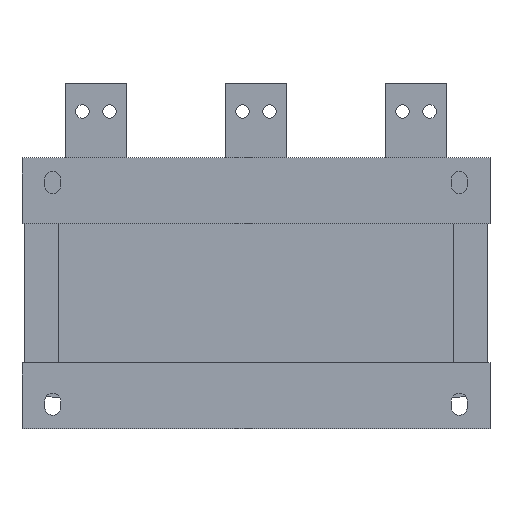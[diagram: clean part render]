
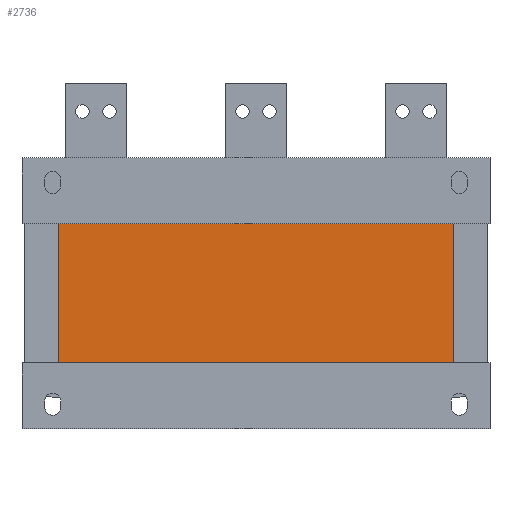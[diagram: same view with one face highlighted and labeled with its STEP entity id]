
A CAD part, front view. The second image highlights one B-rep face of the part: STEP entity #2736.
In plain terms, the highlighted planar face has unit normal (0, -1, 0).
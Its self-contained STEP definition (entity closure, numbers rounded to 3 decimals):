
#104=PLANE('',#2950);
#234=FACE_OUTER_BOUND('',#400,.T.);
#400=EDGE_LOOP('',(#2199,#2200,#2201,#2202));
#642=LINE('',#4227,#966);
#643=LINE('',#4229,#967);
#644=LINE('',#4231,#968);
#645=LINE('',#4232,#969);
#966=VECTOR('',#3454,10.);
#967=VECTOR('',#3455,10.);
#968=VECTOR('',#3456,10.);
#969=VECTOR('',#3457,10.);
#1341=VERTEX_POINT('',#4225);
#1342=VERTEX_POINT('',#4226);
#1343=VERTEX_POINT('',#4228);
#1344=VERTEX_POINT('',#4230);
#1664=EDGE_CURVE('',#1341,#1342,#642,.T.);
#1665=EDGE_CURVE('',#1343,#1341,#643,.T.);
#1666=EDGE_CURVE('',#1344,#1343,#644,.T.);
#1667=EDGE_CURVE('',#1342,#1344,#645,.T.);
#2199=ORIENTED_EDGE('',*,*,#1664,.F.);
#2200=ORIENTED_EDGE('',*,*,#1665,.F.);
#2201=ORIENTED_EDGE('',*,*,#1666,.F.);
#2202=ORIENTED_EDGE('',*,*,#1667,.F.);
#2736=ADVANCED_FACE('',(#234),#104,.F.);
#2950=AXIS2_PLACEMENT_3D('',#4224,#3452,#3453);
#3452=DIRECTION('center_axis',(0.,1.,0.));
#3453=DIRECTION('ref_axis',(0.,0.,1.));
#3454=DIRECTION('',(1.,0.,0.));
#3455=DIRECTION('',(0.,0.,1.));
#3456=DIRECTION('',(-1.,0.,0.));
#3457=DIRECTION('',(0.,0.,-1.));
#4224=CARTESIAN_POINT('Origin',(0.,2.,0.));
#4225=CARTESIAN_POINT('',(-160.,2.,56.5));
#4226=CARTESIAN_POINT('',(160.,2.,56.5));
#4227=CARTESIAN_POINT('',(160.,2.,56.5));
#4228=CARTESIAN_POINT('',(-160.,2.,-56.5));
#4229=CARTESIAN_POINT('',(-160.,2.,-28.25));
#4230=CARTESIAN_POINT('',(160.,2.,-56.5));
#4231=CARTESIAN_POINT('',(-160.,2.,-56.5));
#4232=CARTESIAN_POINT('',(160.,2.,28.25));
